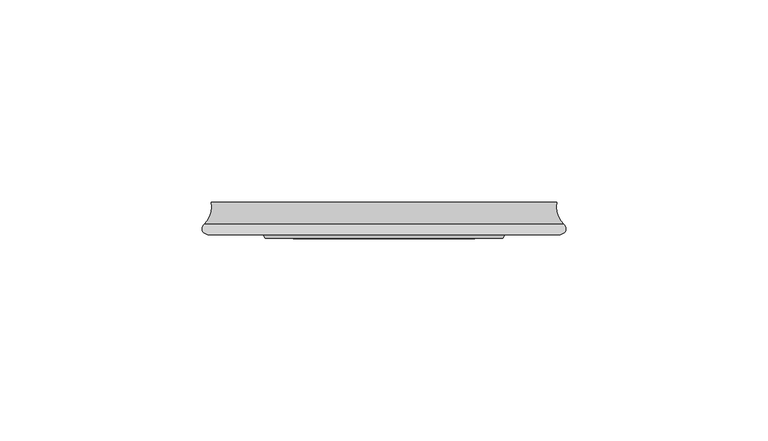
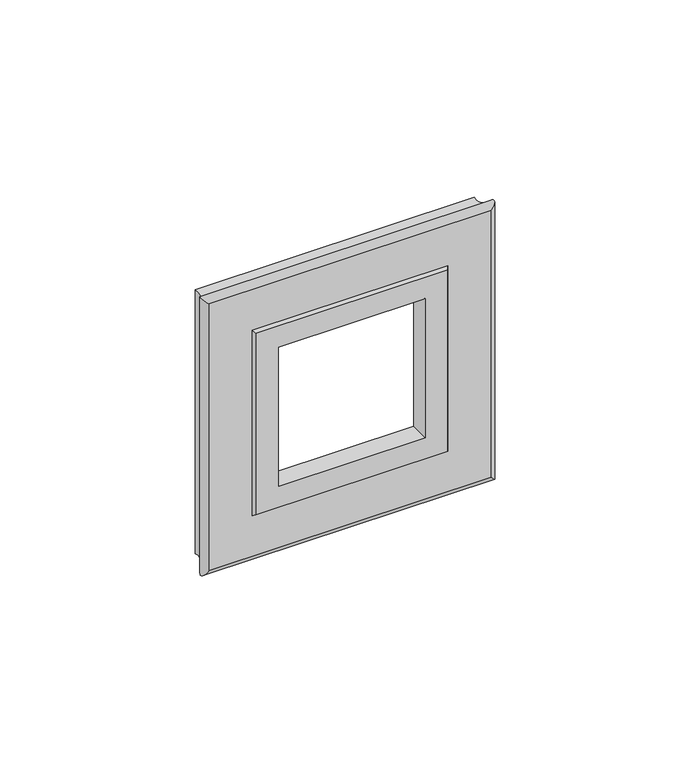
"""IFC4 building model written with IfcOpenShell, lengths in millimetres: proxy geometry."""

from ifc_helpers import new_model, si_unit, frame, origin, place, context, project, spatial, polyline, ellipse_curve, source, transform, mapped, element, save
from ifc_brep_helpers import plane_surface, cylinder_surface, revolved_surface, advanced_brep


def electrical_fixtures_c10009a4(model_context):
    return source(origin(), model_context, "Body", "AdvancedBrep", [
        advanced_brep(
        [(43.2959929, -8.0, -43.2959929), (44.5234735, -5.464633, -44.5234735), (44.5234735, -5.464633, 44.5234735), (43.2959929, -8.0, 43.2959929), (29.4248586, -9.0, -29.4248586), (30.0257192, -8.0, -30.0257192), (30.0257192, -8.0, 30.0257192), (29.4248586, -9.0, 29.4248586), (22.5, -3.0, -22.5), (22.5, -9.0, -22.5), (22.5, -9.0, 22.5), (22.5, -3.0, 22.5), (42.7730895, 0.0, -42.7730895), (42.7730895, 0.0, 42.7730895), (-44.5234735, -5.464633, 44.5234735), (-43.2959929, -8.0, 43.2959929), (-30.0257192, -8.0, 30.0257192), (-29.4248586, -9.0, 29.4248586), (-22.5, -9.0, 22.5), (-22.5, -3.0, 22.5), (-42.7730895, 0.0, 42.7730895), (-44.5234735, -5.464633, -44.5234735), (-43.2959929, -8.0, -43.2959929), (-30.0257192, -8.0, -30.0257192), (-29.4248586, -9.0, -29.4248586), (-22.5, -9.0, -22.5), (-22.5, -3.0, -22.5), (-42.7730895, 0.0, -42.7730895), (35.5, 0.0, 35.5), (-35.5, 0.0, 35.5), (-35.5, 0.0, -35.5), (35.5, 0.0, -35.5), (35.5, -3.0, -35.5), (35.5, -3.0, 35.5), (-35.5, -3.0, 35.5), (-35.5, -3.0, -35.5)],
        [
            (0, 1, ellipse_curve(frame((43.529603, -6.5482791, -43.529603), z_axis=(0.7071067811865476, 0.0, 0.7071067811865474), x_axis=(0.7071067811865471, 0.0, -0.7071067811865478)), 2.0794554, 1.470397)),
            (1, 2),
            (2, 3, ellipse_curve(frame((43.529603, -6.5482791, 43.529603), z_axis=(0.7071067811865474, 0.0, -0.7071067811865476), x_axis=(-0.7071067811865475, 0.0, -0.7071067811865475)), 2.0794554, 1.470397)),
            (3, 0),
            (4, 5),
            (5, 6),
            (6, 7),
            (7, 4),
            (8, 9),
            (9, 10),
            (10, 11),
            (11, 8),
            (1, 12, ellipse_curve(frame((48.4359157, -1.1987829, -48.4359157), z_axis=(-0.7071067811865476, 0.0, -0.7071067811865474), x_axis=(-0.7071067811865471, 0.0, 0.7071067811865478)), 8.1859246, 5.7883228)),
            (12, 13),
            (13, 2, ellipse_curve(frame((48.4359157, -1.1987829, 48.4359157), z_axis=(-0.7071067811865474, 0.0, 0.7071067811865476), x_axis=(0.7071067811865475, 0.0, 0.7071067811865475)), 8.1859246, 5.7883228)),
            (2, 14),
            (14, 15, ellipse_curve(frame((-43.529603, -6.5482791, 43.529603), z_axis=(0.7071067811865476, 0.0, 0.7071067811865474), x_axis=(0.7071067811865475, 0.0, -0.7071067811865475)), 2.0794554, 1.470397)),
            (15, 3),
            (6, 16),
            (16, 17),
            (17, 7),
            (10, 18),
            (18, 19),
            (19, 11),
            (13, 20),
            (20, 14, ellipse_curve(frame((-48.4359157, -1.1987829, 48.4359157), z_axis=(-0.7071067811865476, 0.0, -0.7071067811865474), x_axis=(-0.7071067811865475, 0.0, 0.7071067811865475)), 8.1859246, 5.7883228)),
            (14, 21),
            (21, 22, ellipse_curve(frame((-43.529603, -6.5482791, -43.529603), z_axis=(-0.7071067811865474, 0.0, 0.7071067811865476), x_axis=(0.7071067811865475, 0.0, 0.7071067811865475)), 2.0794554, 1.470397)),
            (22, 15),
            (16, 23),
            (23, 24),
            (24, 17),
            (18, 25),
            (25, 26),
            (26, 19),
            (20, 27),
            (27, 21, ellipse_curve(frame((-48.4359157, -1.1987829, -48.4359157), z_axis=(0.7071067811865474, 0.0, -0.7071067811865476), x_axis=(-0.7071067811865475, 0.0, -0.7071067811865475)), 8.1859246, 5.7883228)),
            (21, 1),
            (0, 22),
            (5, 23),
            (4, 24),
            (9, 25),
            (8, 26),
            (12, 27),
            (28, 29),
            (29, 30),
            (30, 31),
            (31, 28),
            (31, 32),
            (32, 33),
            (33, 28),
            (33, 34),
            (34, 29),
            (34, 35),
            (35, 30),
            (32, 35),
        ],
        [
            cylinder_surface(frame((43.529603, -6.5482791, -45.0), z_axis=(0.0, 0.0, -1.0), x_axis=(-1.0, 0.0, 0.0)), 1.470397),
            plane_surface(frame((30.0257192, -8.0, -30.0257192), z_axis=(0.8571673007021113, -0.515038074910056, 0.0), x_axis=(0.0, 0.0, 1.0))),
            plane_surface(frame((22.5, -9.0, -22.5), z_axis=(-1.0, 0.0, 0.0), x_axis=(0.0, 0.0, 1.0))),
            revolved_surface(polyline([(42.6475929, -1.1987829, 54.22423849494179), (42.6475929, -1.1987829, -54.22423849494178)]), (48.4359157, -1.1987829, -45.0), (0.0, 0.0, 1.0)),
            cylinder_surface(frame((45.0, -6.5482791, 43.529603), z_axis=(1.0, 0.0, 0.0), x_axis=(0.0, 0.0, -1.0)), 1.470397),
            plane_surface(frame((30.0257192, -8.0, 30.0257192), z_axis=(0.0, -0.515038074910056, 0.8571673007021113), x_axis=(-1.0, 0.0, 0.0))),
            plane_surface(frame((22.5, -9.0, 22.5), z_axis=(0.0, 0.0, -1.0), x_axis=(-1.0, 0.0, 0.0))),
            revolved_surface(polyline([(-54.22423849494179, -1.1987829, 42.6475929), (54.22423849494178, -1.1987829, 42.6475929)]), (45.0, -1.1987829, 48.4359157), (-1.0, 0.0, 0.0)),
            cylinder_surface(frame((-43.529603, -6.5482791, 45.0), z_axis=(0.0, 0.0, 1.0), x_axis=(1.0, 0.0, 0.0)), 1.470397),
            plane_surface(frame((-30.0257192, -8.0, 30.0257192), z_axis=(-0.8571673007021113, -0.515038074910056, 0.0), x_axis=(0.0, 0.0, -1.0))),
            plane_surface(frame((-22.5, -9.0, 22.5), z_axis=(1.0, 0.0, 0.0), x_axis=(0.0, 0.0, -1.0))),
            revolved_surface(polyline([(-42.6475929, -1.1987829, -54.22423849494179), (-42.6475929, -1.1987829, 54.22423849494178)]), (-48.4359157, -1.1987829, 45.0), (0.0, 0.0, -1.0)),
            cylinder_surface(frame((-45.0, -6.5482791, -43.529603), z_axis=(-1.0, 0.0, 0.0), x_axis=(0.0, 0.0, 1.0)), 1.470397),
            plane_surface(frame((-43.2959929, -8.0, -43.2959929), z_axis=(0.0, -1.0, 0.0), x_axis=(1.0, 0.0, 0.0))),
            plane_surface(frame((-30.0257192, -8.0, -30.0257192), z_axis=(0.0, -0.515038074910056, -0.8571673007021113), x_axis=(1.0, 0.0, 0.0))),
            plane_surface(frame((-29.4248586, -9.0, -29.4248586), z_axis=(0.0, -1.0, 0.0), x_axis=(1.0, 0.0, 0.0))),
            plane_surface(frame((-22.5, -9.0, -22.5), z_axis=(0.0, 0.0, 1.0), x_axis=(1.0, 0.0, 0.0))),
            plane_surface(frame((-35.5, 0.0, -35.5), z_axis=(0.0, 1.0, 0.0), x_axis=(1.0, 0.0, 0.0))),
            revolved_surface(polyline([(54.22423849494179, -1.1987829, -42.6475929), (-54.22423849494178, -1.1987829, -42.6475929)]), (-45.0, -1.1987829, -48.4359157), (1.0, 0.0, 0.0)),
            plane_surface(frame((35.5, -3.0, -35.5), z_axis=(-1.0, 0.0, 0.0), x_axis=(0.0, 0.0, 1.0))),
            plane_surface(frame((35.5, -3.0, 35.5), z_axis=(0.0, 0.0, -1.0), x_axis=(-1.0, 0.0, 0.0))),
            plane_surface(frame((-35.5, -3.0, 35.5), z_axis=(1.0, 0.0, 0.0), x_axis=(0.0, 0.0, -1.0))),
            plane_surface(frame((-22.5, -3.0, -22.5), z_axis=(0.0, 1.0, 0.0), x_axis=(1.0, 0.0, 0.0))),
            plane_surface(frame((-35.5, -3.0, -35.5), z_axis=(0.0, 0.0, 1.0), x_axis=(1.0, 0.0, 0.0))),
        ],
        [
            (0, [[1, 2, 3, 4]]),
            (1, [[5, 6, 7, 8]]),
            (2, [[9, 10, 11, 12]]),
            (3, [[13, 14, 15, -2]]),
            (4, [[-3, 16, 17, 18]]),
            (5, [[-7, 19, 20, 21]]),
            (6, [[-11, 22, 23, 24]]),
            (7, [[-15, 25, 26, -16]]),
            (8, [[-17, 27, 28, 29]]),
            (9, [[-20, 30, 31, 32]]),
            (10, [[-23, 33, 34, 35]]),
            (11, [[-26, 36, 37, -27]]),
            (12, [[-28, 38, -1, 39]]),
            (13, [[-18, -29, -39, -4], [40, -30, -19, -6]]),
            (14, [[-31, -40, -5, 41]]),
            (15, [[-21, -32, -41, -8], [42, -33, -22, -10]]),
            (16, [[-34, -42, -9, 43]]),
            (17, [[44, -36, -25, -14], [45, 46, 47, 48]]),
            (18, [[-37, -44, -13, -38]]),
            (19, [[49, 50, 51, -48]]),
            (20, [[-51, 52, 53, -45]]),
            (21, [[-53, 54, 55, -46]]),
            (22, [[56, -54, -52, -50], [-24, -35, -43, -12]]),
            (23, [[-55, -56, -49, -47]]),
        ],
    ),
    ])


if __name__ == "__main__":
    model = new_model("IFC4")
    model_context = context("Model", 3, world=origin())
    ifc_project = project(units=[si_unit("LENGTHUNIT", "METRE", prefix="MILLI")], contexts=[model_context])
    site = spatial("IfcSite", under=ifc_project)
    building = spatial("IfcBuilding", under=site)
    placement = place(None, origin())
    electrical_fixtures_shape = electrical_fixtures_c10009a4(model_context)
    element("IfcBuildingElementProxy", 1, Name="Electrical Fixtures", at=placement, inside=building, context=model_context, shape_type="MappedRepresentation", body=[
        mapped(electrical_fixtures_shape, transform((0.0, 0.0, 0.0), x_axis=(1.0, 0.0, 0.0), y_axis=(0.0, 1.0, 0.0), z_axis=(0.0, 0.0, 1.0))),
    ])
    save(model, "model.ifc")
